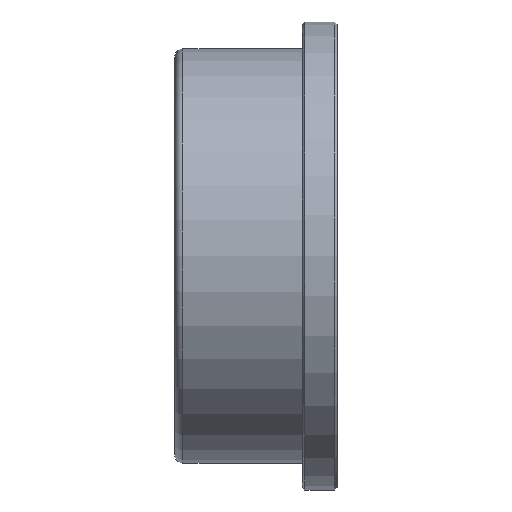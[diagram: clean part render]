
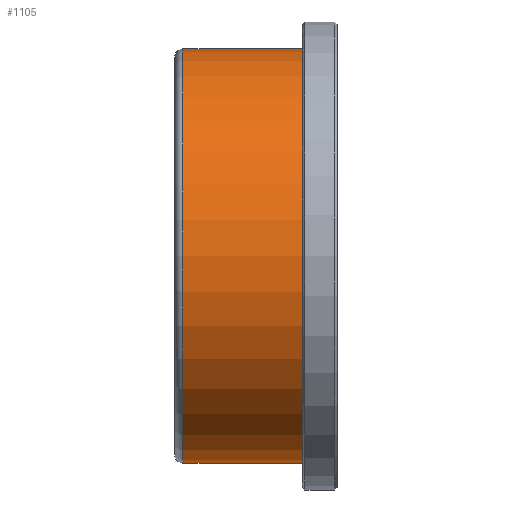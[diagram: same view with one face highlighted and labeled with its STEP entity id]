
A CAD part, top view. The second image highlights one B-rep face of the part: STEP entity #1105.
In plain terms, the highlighted cylindrical face has radius 6.35 mm (diameter 12.7 mm), a partial arc.
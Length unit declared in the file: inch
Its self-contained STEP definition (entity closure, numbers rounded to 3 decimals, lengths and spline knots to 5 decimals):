
#279=CARTESIAN_POINT('',(0.056,0.,0.));
#280=DIRECTION('',(1.,0.,0.));
#281=DIRECTION('',(0.,1.,0.));
#282=AXIS2_PLACEMENT_3D('',#279,#280,#281);
#284=DIRECTION('',(-1.,0.,0.));
#285=VECTOR('',#284,0.1442);
#286=CARTESIAN_POINT('',(0.056,0.25,0.));
#287=LINE('',#286,#285);
#288=DIRECTION('',(-1.,0.,0.));
#289=VECTOR('',#288,0.1442);
#290=CARTESIAN_POINT('',(0.056,-0.25,0.));
#291=LINE('',#290,#289);
#312=CARTESIAN_POINT('',(-0.0882,0.,0.));
#313=DIRECTION('',(1.,0.,0.));
#314=DIRECTION('',(0.,1.,0.));
#315=AXIS2_PLACEMENT_3D('',#312,#313,#314);
#525=CARTESIAN_POINT('',(0.056,0.25,0.));
#526=CARTESIAN_POINT('',(-0.0882,0.25,0.));
#527=VERTEX_POINT('',#525);
#528=VERTEX_POINT('',#526);
#545=CARTESIAN_POINT('',(0.056,-0.25,0.));
#546=CARTESIAN_POINT('',(-0.0882,-0.25,0.));
#547=VERTEX_POINT('',#545);
#548=VERTEX_POINT('',#546);
#1091=CARTESIAN_POINT('',(-0.1078,0.,0.));
#1092=DIRECTION('',(1.,0.,0.));
#1093=DIRECTION('',(0.,-1.,0.));
#1094=AXIS2_PLACEMENT_3D('',#1091,#1092,#1093);
#1095=CYLINDRICAL_SURFACE('',#1094,0.25);
#1097=ORIENTED_EDGE('',*,*,#1096,.F.);
#1098=ORIENTED_EDGE('',*,*,#1084,.T.);
#1100=ORIENTED_EDGE('',*,*,#1099,.T.);
#1102=ORIENTED_EDGE('',*,*,#1101,.F.);
#1103=EDGE_LOOP('',(#1097,#1098,#1100,#1102));
#1104=FACE_OUTER_BOUND('',#1103,.F.);
#1105=ADVANCED_FACE('',(#1104),#1095,.T.);
#283=CIRCLE('',#282,0.25);
#316=CIRCLE('',#315,0.25);
#1084=EDGE_CURVE('',#527,#547,#283,.T.);
#1096=EDGE_CURVE('',#527,#528,#287,.T.);
#1099=EDGE_CURVE('',#547,#548,#291,.T.);
#1101=EDGE_CURVE('',#528,#548,#316,.T.);
